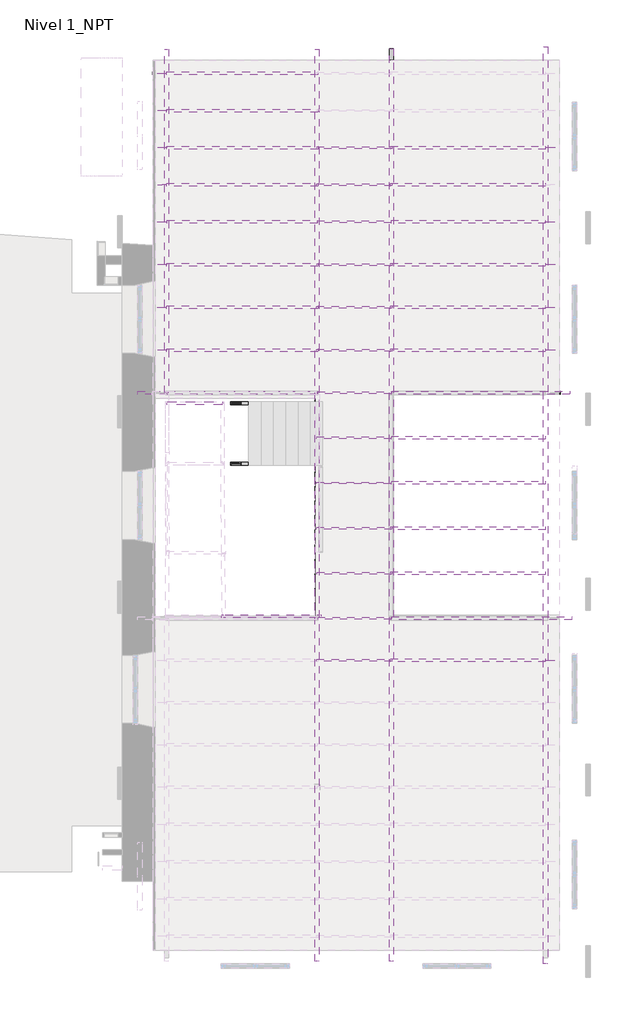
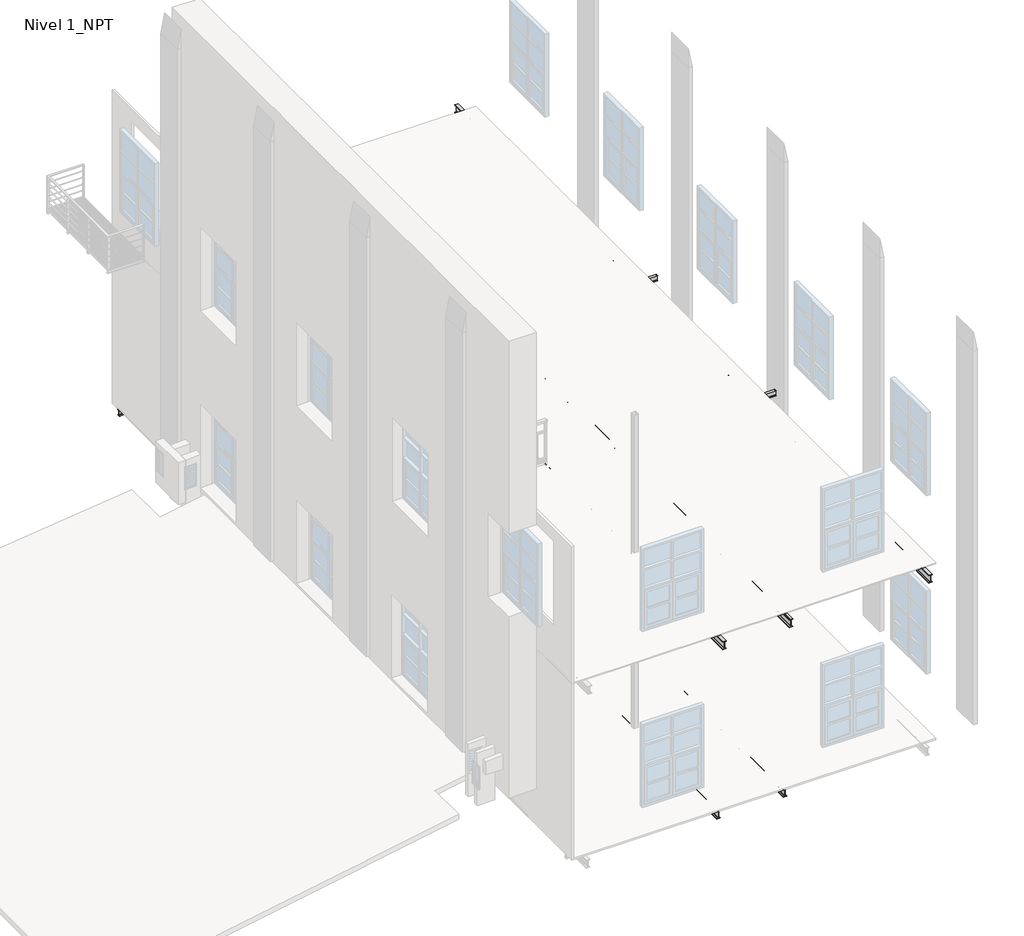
# One storey, part 3 of 6: 93 beams.
"""IFC4 building model written with IfcOpenShell, lengths in millimetres."""

from ifc_helpers import new_model, si_unit, point, frame, frame_2d, origin, place, context, project, spatial, polyline, circle_curve, trimmed, segment, composite_curve, outline, extrude, transform, mapped, element, save
from components import est_perf_ace_est_perf_ace_652393f0, ipn_140_ea90ba17, ipn_140_a066fb9f, ipn_140_dce53db5, ipn_140_1e3c4ed5, ipn_140_421eb129, ipn_140_9560b9f3, ipn_140_dd2e7f60, ipn_140_cea704c2, ipn_140_c6567682, est_vi_ipn_140_513cc523, ipn_140_ef176ace, ipn_140_6de8b993, ipn_140_4a258899, ipn_140_cbeb944a, est_vi_ipn_140_41f6773e, ipn_140_681980e7, ipn_140_393f5682, ipn_140_dc04cb4f, ipn_200_14f106e9, ipn_200_2b1a08ea, ipn_200_c3f78f1e, ipn_200_8969ec96, ipn_200_cd8d92dd, ipn_200_ee55a63d, ipn_200_5e1aae8f, ipn_80_bbd9ff88, ipn_80_7466b6c9, ipn_80_84bd256f, ipn_80_fcc924d6, ipn_80_671c353a, ipn_80_96fa54d6, ipn_80_94bfb847

model = new_model("IFC4")

# Units and contexts
model_context = context("Model", 3, world=origin())
ifc_project = project(units=[si_unit("LENGTHUNIT", "METRE", prefix="MILLI")], contexts=[model_context])

# Site, building, storey
site = spatial("IfcSite", under=ifc_project)
building = spatial("IfcBuilding", under=site)
storey = spatial("IfcBuildingStorey", under=building, Name="Nivel 1_NPT", Elevation=4940.0)

# Beams
placement = place(None, origin())
est_perf_ace_est_perf_ace_shape = est_perf_ace_est_perf_ace_652393f0(model_context)
element("IfcBeam", 1, ObjectType="EST-PERF-Ace : EST-PERF-Ace", at=placement, inside=storey, context=model_context, shape_type="MappedRepresentation", body=[
    mapped(est_perf_ace_est_perf_ace_shape, transform((6334.8126262, 7374.6072273, 9500.0), x_axis=(0.0, 1.0, 0.0), y_axis=(-1.0, 0.0, 0.0), z_axis=(0.0, 0.0, 1.0))),
])
element("IfcBeam", 2, ObjectType="EST-PERF-Ace : EST-PERF-Ace", at=placement, inside=storey, context=model_context, shape_type="MappedRepresentation", body=[
    mapped(est_perf_ace_est_perf_ace_shape, transform((6334.8126262, 8313.6072273, 9500.0), x_axis=(0.0, 1.0, 0.0), y_axis=(-1.0, 0.0, 0.0), z_axis=(0.0, 0.0, 1.0))),
])
element("IfcBeam", 3, ObjectType="EST-PERF-Ace : EST-PERF-Ace", at=placement, inside=storey, context=model_context, shape_type="MappedRepresentation", body=[
    mapped(est_perf_ace_est_perf_ace_shape, transform((6334.8126262, 9252.6072273, 9500.0), x_axis=(0.0, 1.0, 0.0), y_axis=(-1.0, 0.0, 0.0), z_axis=(0.0, 0.0, 1.0))),
])
element("IfcBeam", 4, ObjectType="EST-PERF-Ace : EST-PERF-Ace", at=placement, inside=storey, context=model_context, shape_type="MappedRepresentation", body=[
    mapped(est_perf_ace_est_perf_ace_shape, transform((6334.8126262, 10191.6072273, 9500.0), x_axis=(0.0, 1.0, 0.0), y_axis=(-1.0, 0.0, 0.0), z_axis=(0.0, 0.0, 1.0))),
])
element("IfcBeam", 5, ObjectType="EST-PERF-Ace : EST-PERF-Ace", at=placement, inside=storey, context=model_context, shape_type="MappedRepresentation", body=[
    mapped(est_perf_ace_est_perf_ace_shape, transform((6334.8126262, 11007.1072273, 9500.0), x_axis=(0.0, 1.0, 0.0), y_axis=(-1.0, 0.0, 0.0), z_axis=(0.0, 0.0, 1.0))),
])
element("IfcBeam", 6, ObjectType="EST-PERF-Ace : EST-PERF-Ace", at=placement, inside=storey, context=model_context, shape_type="MappedRepresentation", body=[
    mapped(est_perf_ace_est_perf_ace_shape, transform((6334.8126262, 11822.6072273, 9500.0), x_axis=(0.0, 1.0, 0.0), y_axis=(-1.0, 0.0, 0.0), z_axis=(0.0, 0.0, 1.0))),
])
element("IfcBeam", 7, ObjectType="EST-PERF-Ace : EST-PERF-Ace", at=placement, inside=storey, context=model_context, shape_type="MappedRepresentation", body=[
    mapped(est_perf_ace_est_perf_ace_shape, transform((6334.8126262, 12638.1072273, 9500.0), x_axis=(0.0, 1.0, 0.0), y_axis=(-1.0, 0.0, 0.0), z_axis=(0.0, 0.0, 1.0))),
])
element("IfcBeam", 8, ObjectType="EST-PERF-Ace : EST-PERF-Ace", at=placement, inside=storey, context=model_context, shape_type="MappedRepresentation", body=[
    mapped(est_perf_ace_est_perf_ace_shape, transform((6334.8126262, 13453.6072273, 9500.0), x_axis=(0.0, 1.0, 0.0), y_axis=(-1.0, 0.0, 0.0), z_axis=(0.0, 0.0, 1.0))),
])
element("IfcBeam", 9, ObjectType="EST-PERF-Ace : EST-PERF-Ace", at=placement, inside=storey, context=model_context, shape_type="MappedRepresentation", body=[
    mapped(est_perf_ace_est_perf_ace_shape, transform((14664.8126262, 556.847353, 9500.0), x_axis=(0.0, -1.0, 0.0), y_axis=(1.0, 0.0, 0.0), z_axis=(0.0, 0.0, 1.0))),
])
element("IfcBeam", 10, ObjectType="EST-PERF-Ace : EST-PERF-Ace", at=placement, inside=storey, context=model_context, shape_type="MappedRepresentation", body=[
    mapped(est_perf_ace_est_perf_ace_shape, transform((14664.8126262, 7374.6072273, 9500.0), x_axis=(0.0, -1.0, 0.0), y_axis=(1.0, 0.0, 0.0), z_axis=(0.0, 0.0, 1.0))),
])
element("IfcBeam", 11, ObjectType="EST-PERF-Ace : EST-PERF-Ace", at=placement, inside=storey, context=model_context, shape_type="MappedRepresentation", body=[
    mapped(est_perf_ace_est_perf_ace_shape, transform((14664.8126262, 8313.6072273, 9500.0), x_axis=(0.0, -1.0, 0.0), y_axis=(1.0, 0.0, 0.0), z_axis=(0.0, 0.0, 1.0))),
])
element("IfcBeam", 12, ObjectType="EST-PERF-Ace : EST-PERF-Ace", at=placement, inside=storey, context=model_context, shape_type="MappedRepresentation", body=[
    mapped(est_perf_ace_est_perf_ace_shape, transform((14664.8126262, 9252.6072273, 9500.0), x_axis=(0.0, -1.0, 0.0), y_axis=(1.0, 0.0, 0.0), z_axis=(0.0, 0.0, 1.0))),
])
element("IfcBeam", 13, ObjectType="EST-PERF-Ace : EST-PERF-Ace", at=placement, inside=storey, context=model_context, shape_type="MappedRepresentation", body=[
    mapped(est_perf_ace_est_perf_ace_shape, transform((14664.8126262, 10191.6072273, 9500.0), x_axis=(0.0, -1.0, 0.0), y_axis=(1.0, 0.0, 0.0), z_axis=(0.0, 0.0, 1.0))),
])
element("IfcBeam", 14, ObjectType="EST-PERF-Ace : EST-PERF-Ace", at=placement, inside=storey, context=model_context, shape_type="MappedRepresentation", body=[
    mapped(est_perf_ace_est_perf_ace_shape, transform((14664.8126262, 11822.6072273, 9500.0), x_axis=(0.0, -1.0, 0.0), y_axis=(1.0, 0.0, 0.0), z_axis=(0.0, 0.0, 1.0))),
])
element("IfcBeam", 15, ObjectType="IPN - Secciones en I con alas cónicas : IPN 140", at=placement, inside=storey, context=model_context, shape_type="SweptSolid", body=[
    extrude(outline(composite_curve([segment(polyline([(70.0, 33.0), (70.0, -33.0), (66.6671582, -33.0)]), True, "CONTINUOUS"), segment(trimmed(circle_curve(frame_2d((66.6671582, -29.6)), 3.4), [point((66.6671582, -33.0))], [point((63.2999963, -30.0714026))], False, "CARTESIAN"), True, "CONTINUOUS"), segment(polyline([(63.2999963, -30.0714026), (60.176359, -7.7597073)]), True, "CONTINUOUS"), segment(trimmed(circle_curve(frame_2d((54.531411, -8.5499999)), 5.7), [point((60.176359, -7.7597073))], [point((54.5314111, -2.85))], True, "CARTESIAN"), True, "CONTINUOUS"), segment(polyline([(54.5314111, -2.85), (-54.5314111, -2.85)]), True, "CONTINUOUS"), segment(trimmed(circle_curve(frame_2d((-54.5314111, -8.5499999)), 5.7), [point((-54.5314111, -2.85))], [point((-60.176359, -7.7597073))], True, "CARTESIAN"), True, "CONTINUOUS"), segment(polyline([(-60.176359, -7.7597073), (-63.2999964, -30.0714026)]), True, "CONTINUOUS"), segment(trimmed(circle_curve(frame_2d((-66.6671584, -29.6)), 3.4), [point((-63.2999964, -30.0714026))], [point((-66.6671584, -33.0))], False, "CARTESIAN"), True, "CONTINUOUS"), segment(polyline([(-66.6671584, -33.0), (-70.0, -32.9999999), (-70.0, 33.0000001), (-66.6671584, 33.0)]), True, "CONTINUOUS"), segment(trimmed(circle_curve(frame_2d((-66.6671584, 29.6)), 3.4), [point((-66.6671584, 33.0))], [point((-63.2999964, 30.0714027))], False, "CARTESIAN"), True, "CONTINUOUS"), segment(polyline([(-63.2999964, 30.0714027), (-60.176359, 7.7597074)]), True, "CONTINUOUS"), segment(trimmed(circle_curve(frame_2d((-54.5314111, 8.55)), 5.7), [point((-60.176359, 7.7597074))], [point((-54.5314111, 2.85))], True, "CARTESIAN"), True, "CONTINUOUS"), segment(polyline([(-54.5314111, 2.85), (54.531411, 2.85)]), True, "CONTINUOUS"), segment(trimmed(circle_curve(frame_2d((54.5314111, 8.55)), 5.7), [point((54.531411, 2.85))], [point((60.176359, 7.7597073))], True, "CARTESIAN"), True, "CONTINUOUS"), segment(polyline([(60.176359, 7.7597073), (63.2999963, 30.0714027)]), True, "CONTINUOUS"), segment(trimmed(circle_curve(frame_2d((66.6671583, 29.6000001)), 3.4), [point((63.2999963, 30.0714027))], [point((66.6671583, 33.0000001))], False, "CARTESIAN"), True, "CONTINUOUS"), segment(polyline([(66.6671583, 33.0000001), (70.0, 33.0)]), True, "CONTINUOUS")], self_intersect=False)), frame((9688.074093, 4877.6046448, 4855.3904828), z_axis=(-0.8178055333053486, 0.0010518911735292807, 0.5754937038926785), x_axis=(0.5754932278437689, -0.0007402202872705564, 0.8178062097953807)), (0.0, 0.0, 1.0), 2582.6152162),
])
element("IfcBeam", 16, ObjectType="IPN - Secciones en I con alas cónicas : IPN 140", at=placement, inside=storey, context=model_context, shape_type="SweptSolid", body=[
    extrude(outline(composite_curve([segment(polyline([(70.0, -33.0), (66.6671583, -33.0)]), True, "CONTINUOUS"), segment(trimmed(circle_curve(frame_2d((66.6671583, -29.6)), 3.4), [point((66.6671583, -33.0))], [point((63.2999964, -30.0714027))], False, "CARTESIAN"), True, "CONTINUOUS"), segment(polyline([(63.2999964, -30.0714027), (60.176359, -7.7597073)]), True, "CONTINUOUS"), segment(trimmed(circle_curve(frame_2d((54.5314111, -8.55)), 5.7), [point((60.176359, -7.7597073))], [point((54.5314111, -2.85))], True, "CARTESIAN"), True, "CONTINUOUS"), segment(polyline([(54.5314111, -2.85), (-54.531411, -2.85)]), True, "CONTINUOUS"), segment(trimmed(circle_curve(frame_2d((-54.531411, -8.55)), 5.7), [point((-54.531411, -2.85))], [point((-60.176359, -7.7597073))], True, "CARTESIAN"), True, "CONTINUOUS"), segment(polyline([(-60.176359, -7.7597073), (-63.2999963, -30.0714027)]), True, "CONTINUOUS"), segment(trimmed(circle_curve(frame_2d((-66.6671583, -29.6)), 3.4), [point((-63.2999963, -30.0714027))], [point((-66.6671583, -33.0))], False, "CARTESIAN"), True, "CONTINUOUS"), segment(polyline([(-66.6671583, -33.0), (-70.0, -33.0), (-70.0, 33.0), (-66.6671583, 33.0)]), True, "CONTINUOUS"), segment(trimmed(circle_curve(frame_2d((-66.6671583, 29.6)), 3.4), [point((-66.6671583, 33.0))], [point((-63.2999963, 30.0714026))], False, "CARTESIAN"), True, "CONTINUOUS"), segment(polyline([(-63.2999963, 30.0714026), (-60.176359, 7.7597072)]), True, "CONTINUOUS"), segment(trimmed(circle_curve(frame_2d((-54.531411, 8.55)), 5.7), [point((-60.176359, 7.7597072))], [point((-54.531411, 2.85))], True, "CARTESIAN"), True, "CONTINUOUS"), segment(polyline([(-54.531411, 2.85), (54.5314111, 2.85)]), True, "CONTINUOUS"), segment(trimmed(circle_curve(frame_2d((54.5314111, 8.55)), 5.7), [point((54.5314111, 2.85))], [point((60.176359, 7.7597072))], True, "CARTESIAN"), True, "CONTINUOUS"), segment(polyline([(60.176359, 7.7597072), (63.2999964, 30.0714026)]), True, "CONTINUOUS"), segment(trimmed(circle_curve(frame_2d((66.6671583, 29.6)), 3.4), [point((63.2999964, 30.0714026))], [point((66.6671583, 33.0))], False, "CARTESIAN"), True, "CONTINUOUS"), segment(polyline([(66.6671583, 33.0), (70.0, 33.0), (70.0, -33.0)]), True, "CONTINUOUS")], self_intersect=False)), frame((7566.2054865, 6211.6117789, 6333.1623069), z_axis=(-0.9999999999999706, 0.0, 2.4249234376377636e-07), x_axis=(2.4249234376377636e-07, 0.0, 0.9999999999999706)), (0.0, 0.0, 1.0), 1220.85),
])
element("IfcBeam", 17, ObjectType="IPN - Secciones en I con alas cónicas : IPN 140", at=placement, inside=storey, context=model_context, shape_type="SweptSolid", body=[
    extrude(outline(composite_curve([segment(polyline([(70.0, -33.0), (66.6671583, -33.0)]), True, "CONTINUOUS"), segment(trimmed(circle_curve(frame_2d((66.6671583, -29.6)), 3.4), [point((66.6671583, -33.0))], [point((63.2999963, -30.0714027))], False, "CARTESIAN"), True, "CONTINUOUS"), segment(polyline([(63.2999963, -30.0714027), (60.176359, -7.7597073)]), True, "CONTINUOUS"), segment(trimmed(circle_curve(frame_2d((54.531411, -8.55)), 5.7), [point((60.176359, -7.7597073))], [point((54.531411, -2.85))], True, "CARTESIAN"), True, "CONTINUOUS"), segment(polyline([(54.531411, -2.85), (-54.5314111, -2.85)]), True, "CONTINUOUS"), segment(trimmed(circle_curve(frame_2d((-54.5314111, -8.55)), 5.7), [point((-54.5314111, -2.85))], [point((-60.1763591, -7.7597073))], True, "CARTESIAN"), True, "CONTINUOUS"), segment(polyline([(-60.1763591, -7.7597073), (-63.2999964, -30.0714027)]), True, "CONTINUOUS"), segment(trimmed(circle_curve(frame_2d((-66.6671584, -29.6)), 3.4), [point((-63.2999964, -30.0714027))], [point((-66.6671584, -33.0))], False, "CARTESIAN"), True, "CONTINUOUS"), segment(polyline([(-66.6671584, -33.0), (-70.0, -33.0), (-70.0, 33.0), (-66.6671584, 33.0)]), True, "CONTINUOUS"), segment(trimmed(circle_curve(frame_2d((-66.6671584, 29.6)), 3.4), [point((-66.6671584, 33.0))], [point((-63.2999964, 30.0714026))], False, "CARTESIAN"), True, "CONTINUOUS"), segment(polyline([(-63.2999964, 30.0714026), (-60.1763591, 7.7597072)]), True, "CONTINUOUS"), segment(trimmed(circle_curve(frame_2d((-54.5314111, 8.55)), 5.7), [point((-60.1763591, 7.7597072))], [point((-54.5314111, 2.85))], True, "CARTESIAN"), True, "CONTINUOUS"), segment(polyline([(-54.5314111, 2.85), (54.531411, 2.85)]), True, "CONTINUOUS"), segment(trimmed(circle_curve(frame_2d((54.531411, 8.55)), 5.7), [point((54.531411, 2.85))], [point((60.176359, 7.7597072))], True, "CARTESIAN"), True, "CONTINUOUS"), segment(polyline([(60.176359, 7.7597072), (63.2999963, 30.0714026)]), True, "CONTINUOUS"), segment(trimmed(circle_curve(frame_2d((66.6671583, 29.6)), 3.4), [point((63.2999963, 30.0714026))], [point((66.6671583, 33.0))], False, "CARTESIAN"), True, "CONTINUOUS"), segment(polyline([(66.6671583, 33.0), (70.0, 33.0), (70.0, -33.0)]), True, "CONTINUOUS")], self_intersect=False)), frame((7566.2054865, 6211.6117789, 6529.649704), z_axis=(-0.9999999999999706, 0.0, 2.4249234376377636e-07), x_axis=(2.4249234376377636e-07, 0.0, 0.9999999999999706)), (0.0, 0.0, 1.0), 1220.85),
])
element("IfcBeam", 18, ObjectType="IPN - Secciones en I con alas cónicas : IPN 140", at=placement, inside=storey, context=model_context, shape_type="SweptSolid", body=[
    extrude(outline(composite_curve([segment(polyline([(70.0, 33.0), (70.0, -33.0), (66.6671582, -32.9999999)]), True, "CONTINUOUS"), segment(trimmed(circle_curve(frame_2d((66.6671582, -29.6)), 3.4), [point((66.6671582, -32.9999999))], [point((63.2999963, -30.0714026))], False, "CARTESIAN"), True, "CONTINUOUS"), segment(polyline([(63.2999963, -30.0714026), (60.176359, -7.7597073)]), True, "CONTINUOUS"), segment(trimmed(circle_curve(frame_2d((54.531411, -8.5499999)), 5.7), [point((60.176359, -7.7597073))], [point((54.5314111, -2.85))], True, "CARTESIAN"), True, "CONTINUOUS"), segment(polyline([(54.5314111, -2.85), (-54.5314111, -2.8499999)]), True, "CONTINUOUS"), segment(trimmed(circle_curve(frame_2d((-54.5314111, -8.5499999)), 5.7), [point((-54.5314111, -2.8499999))], [point((-60.176359, -7.7597073))], True, "CARTESIAN"), True, "CONTINUOUS"), segment(polyline([(-60.176359, -7.7597073), (-63.2999964, -30.0714026)]), True, "CONTINUOUS"), segment(trimmed(circle_curve(frame_2d((-66.6671584, -29.6)), 3.4), [point((-63.2999964, -30.0714026))], [point((-66.6671584, -33.0))], False, "CARTESIAN"), True, "CONTINUOUS"), segment(polyline([(-66.6671584, -33.0), (-70.0, -32.9999999), (-70.0, 33.0000001), (-66.6671584, 33.0)]), True, "CONTINUOUS"), segment(trimmed(circle_curve(frame_2d((-66.6671584, 29.6)), 3.4), [point((-66.6671584, 33.0))], [point((-63.2999964, 30.0714027))], False, "CARTESIAN"), True, "CONTINUOUS"), segment(polyline([(-63.2999964, 30.0714027), (-60.176359, 7.7597074)]), True, "CONTINUOUS"), segment(trimmed(circle_curve(frame_2d((-54.5314111, 8.55)), 5.7), [point((-60.176359, 7.7597074))], [point((-54.5314111, 2.85))], True, "CARTESIAN"), True, "CONTINUOUS"), segment(polyline([(-54.5314111, 2.85), (54.531411, 2.85)]), True, "CONTINUOUS"), segment(trimmed(circle_curve(frame_2d((54.5314111, 8.55)), 5.7), [point((54.531411, 2.85))], [point((60.176359, 7.7597074))], True, "CARTESIAN"), True, "CONTINUOUS"), segment(polyline([(60.176359, 7.7597074), (63.2999963, 30.0714027)]), True, "CONTINUOUS"), segment(trimmed(circle_curve(frame_2d((66.6671583, 29.6000001)), 3.4), [point((63.2999963, 30.0714027))], [point((66.6671583, 33.0000001))], False, "CARTESIAN"), True, "CONTINUOUS"), segment(polyline([(66.6671583, 33.0000001), (70.0, 33.0)]), True, "CONTINUOUS")], self_intersect=False)), frame((9688.074093, 6209.5775946, 4855.3904828), z_axis=(-0.8178055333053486, 0.0010518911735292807, 0.5754937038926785), x_axis=(0.5754932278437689, -0.0007402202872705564, 0.8178062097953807)), (0.0, 0.0, 1.0), 2582.6152162),
])
element("IfcBeam", 19, ObjectType="IPN - Secciones en I con alas cónicas : IPN 140", at=placement, inside=storey, context=model_context, shape_type="SweptSolid", body=[
    extrude(outline(composite_curve([segment(polyline([(70.0, -33.0), (66.6671583, -33.0)]), True, "CONTINUOUS"), segment(trimmed(circle_curve(frame_2d((66.6671583, -29.6)), 3.4), [point((66.6671583, -33.0))], [point((63.2999964, -30.0714026))], False, "CARTESIAN"), True, "CONTINUOUS"), segment(polyline([(63.2999964, -30.0714026), (60.176359, -7.7597072)]), True, "CONTINUOUS"), segment(trimmed(circle_curve(frame_2d((54.5314111, -8.55)), 5.7), [point((60.176359, -7.7597072))], [point((54.5314111, -2.85))], True, "CARTESIAN"), True, "CONTINUOUS"), segment(polyline([(54.5314111, -2.85), (-54.5314111, -2.85)]), True, "CONTINUOUS"), segment(trimmed(circle_curve(frame_2d((-54.5314111, -8.55)), 5.7), [point((-54.5314111, -2.85))], [point((-60.176359, -7.7597072))], True, "CARTESIAN"), True, "CONTINUOUS"), segment(polyline([(-60.176359, -7.7597072), (-63.2999963, -30.0714026)]), True, "CONTINUOUS"), segment(trimmed(circle_curve(frame_2d((-66.6671582, -29.6)), 3.4), [point((-63.2999963, -30.0714026))], [point((-66.6671582, -33.0))], False, "CARTESIAN"), True, "CONTINUOUS"), segment(polyline([(-66.6671582, -33.0), (-70.0, -33.0), (-70.0, 33.0), (-66.6671582, 33.0)]), True, "CONTINUOUS"), segment(trimmed(circle_curve(frame_2d((-66.6671582, 29.6)), 3.4), [point((-66.6671582, 33.0))], [point((-63.2999963, 30.0714027))], False, "CARTESIAN"), True, "CONTINUOUS"), segment(polyline([(-63.2999963, 30.0714027), (-60.176359, 7.7597073)]), True, "CONTINUOUS"), segment(trimmed(circle_curve(frame_2d((-54.5314111, 8.55)), 5.7), [point((-60.176359, 7.7597073))], [point((-54.5314111, 2.85))], True, "CARTESIAN"), True, "CONTINUOUS"), segment(polyline([(-54.5314111, 2.85), (54.5314111, 2.85)]), True, "CONTINUOUS"), segment(trimmed(circle_curve(frame_2d((54.5314111, 8.55)), 5.7), [point((54.5314111, 2.85))], [point((60.176359, 7.7597073))], True, "CARTESIAN"), True, "CONTINUOUS"), segment(polyline([(60.176359, 7.7597073), (63.2999964, 30.0714027)]), True, "CONTINUOUS"), segment(trimmed(circle_curve(frame_2d((66.6671583, 29.6)), 3.4), [point((63.2999964, 30.0714027))], [point((66.6671583, 33.0))], False, "CARTESIAN"), True, "CONTINUOUS"), segment(polyline([(66.6671583, 33.0), (70.0, 33.0), (70.0, -33.0)]), True, "CONTINUOUS")], self_intersect=False)), frame((7583.3621946, 1529.342606, 7850.2148734), z_axis=(0.802705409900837, 0.0, 0.596375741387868), x_axis=(-0.596375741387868, 0.0, 0.802705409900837)), (0.0, 0.0, 1.0), 2613.7379077),
])
ipn_140_shape = ipn_140_ea90ba17(model_context)
element("IfcBeam", 20, ObjectType="IPN - Secciones en I con alas cónicas : IPN 140", at=placement, inside=storey, context=model_context, shape_type="MappedRepresentation", body=[
    mapped(ipn_140_shape, transform((13064.8126262, 7374.6072273, 4840.0), x_axis=(1.0, 0.0, 0.0), y_axis=(0.0, 1.0, 0.0), z_axis=(0.0, 0.0, 1.0))),
])
element("IfcBeam", 21, ObjectType="IPN - Secciones en I con alas cónicas : IPN 140", at=placement, inside=storey, context=model_context, shape_type="MappedRepresentation", body=[
    mapped(ipn_140_shape, transform((13064.8126262, 556.847353, 4840.0), x_axis=(1.0, 0.0, 0.0), y_axis=(0.0, 1.0, 0.0), z_axis=(0.0, 0.0, 1.0))),
])
ipn_140_2_shape = ipn_140_a066fb9f(model_context)
element("IfcBeam", 22, ObjectType="IPN - Secciones en I con alas cónicas : IPN 140", at=placement, inside=storey, context=model_context, shape_type="MappedRepresentation", body=[
    mapped(ipn_140_2_shape, transform((13119.8126262, 11007.1072273, 4840.0), x_axis=(1.0, 0.0, 0.0), y_axis=(0.0, 1.0, 0.0), z_axis=(0.0, 0.0, 1.0))),
])
element("IfcBeam", 23, ObjectType="IPN - Secciones en I con alas cónicas : IPN 140", at=placement, inside=storey, context=model_context, shape_type="MappedRepresentation", body=[
    mapped(ipn_140_2_shape, transform((13119.8126262, 11822.6072273, 4840.0), x_axis=(1.0, 0.0, 0.0), y_axis=(0.0, 1.0, 0.0), z_axis=(0.0, 0.0, 1.0))),
])
element("IfcBeam", 24, ObjectType="IPN - Secciones en I con alas cónicas : IPN 140", at=placement, inside=storey, context=model_context, shape_type="MappedRepresentation", body=[
    mapped(ipn_140_2_shape, transform((13119.8126262, 9252.6072273, 4840.0), x_axis=(1.0, 0.0, 0.0), y_axis=(0.0, 1.0, 0.0), z_axis=(0.0, 0.0, 1.0))),
])
element("IfcBeam", 25, ObjectType="IPN - Secciones en I con alas cónicas : IPN 140", at=placement, inside=storey, context=model_context, shape_type="MappedRepresentation", body=[
    mapped(ipn_140_2_shape, transform((13119.8126262, 8313.6072273, 4840.0), x_axis=(1.0, 0.0, 0.0), y_axis=(0.0, 1.0, 0.0), z_axis=(0.0, 0.0, 1.0))),
])
ipn_140_3_shape = ipn_140_dce53db5(model_context)
element("IfcBeam", 26, ObjectType="IPN - Secciones en I con alas cónicas : IPN 140", at=placement, inside=storey, context=model_context, shape_type="MappedRepresentation", body=[
    mapped(ipn_140_3_shape, transform((7904.8126262, 11007.1072273, 4840.0), x_axis=(1.0, 0.0, 0.0), y_axis=(0.0, 1.0, 0.0), z_axis=(0.0, 0.0, 1.0))),
])
element("IfcBeam", 27, ObjectType="IPN - Secciones en I con alas cónicas : IPN 140", at=placement, inside=storey, context=model_context, shape_type="MappedRepresentation", body=[
    mapped(ipn_140_3_shape, transform((7904.8126262, 11822.6072273, 4840.0), x_axis=(1.0, 0.0, 0.0), y_axis=(0.0, 1.0, 0.0), z_axis=(0.0, 0.0, 1.0))),
])
element("IfcBeam", 28, ObjectType="IPN - Secciones en I con alas cónicas : IPN 140", at=placement, inside=storey, context=model_context, shape_type="MappedRepresentation", body=[
    mapped(ipn_140_3_shape, transform((7904.8126262, 12638.1072273, 4840.0), x_axis=(1.0, 0.0, 0.0), y_axis=(0.0, 1.0, 0.0), z_axis=(0.0, 0.0, 1.0))),
])
element("IfcBeam", 29, ObjectType="IPN - Secciones en I con alas cónicas : IPN 140", at=placement, inside=storey, context=model_context, shape_type="MappedRepresentation", body=[
    mapped(ipn_140_3_shape, transform((7904.8126262, 9252.6072273, 4840.0), x_axis=(1.0, 0.0, 0.0), y_axis=(0.0, 1.0, 0.0), z_axis=(0.0, 0.0, 1.0))),
])
element("IfcBeam", 30, ObjectType="IPN - Secciones en I con alas cónicas : IPN 140", at=placement, inside=storey, context=model_context, shape_type="MappedRepresentation", body=[
    mapped(ipn_140_3_shape, transform((7904.8126262, 8313.6072273, 4840.0), x_axis=(1.0, 0.0, 0.0), y_axis=(0.0, 1.0, 0.0), z_axis=(0.0, 0.0, 1.0))),
])
element("IfcBeam", 31, ObjectType="IPN - Secciones en I con alas cónicas : IPN 140", at=placement, inside=storey, context=model_context, shape_type="MappedRepresentation", body=[
    mapped(ipn_140_3_shape, transform((7904.8126262, 7374.6072273, 4840.0), x_axis=(1.0, 0.0, 0.0), y_axis=(0.0, 1.0, 0.0), z_axis=(0.0, 0.0, 1.0))),
])
ipn_140_4_shape = ipn_140_1e3c4ed5(model_context)
element("IfcBeam", 32, ObjectType="IPN - Secciones en I con alas cónicas : IPN 140", at=placement, inside=storey, context=model_context, shape_type="MappedRepresentation", body=[
    mapped(ipn_140_4_shape, transform((7835.8281044, 13453.6072273, 4840.0), x_axis=(1.0, 0.0, 0.0), y_axis=(0.0, 1.0, 0.0), z_axis=(0.0, 0.0, 1.0))),
])
ipn_140_5_shape = ipn_140_421eb129(model_context)
element("IfcBeam", 33, ObjectType="IPN - Secciones en I con alas cónicas : IPN 140", at=placement, inside=storey, context=model_context, shape_type="MappedRepresentation", body=[
    mapped(ipn_140_5_shape, transform((7836.0890431, 6435.6072273, 4840.0), x_axis=(1.0, 0.0, 0.0), y_axis=(0.0, 1.0, 0.0), z_axis=(0.0, 0.0, 1.0))),
])
ipn_140_6_shape = ipn_140_9560b9f3(model_context)
element("IfcBeam", 34, ObjectType="IPN - Secciones en I con alas cónicas : IPN 140", at=placement, inside=storey, context=model_context, shape_type="MappedRepresentation", body=[
    mapped(ipn_140_6_shape, transform((13124.5288206, 6435.6072273, 4840.0), x_axis=(1.0, 0.0, 0.0), y_axis=(0.0, 1.0, 0.0), z_axis=(0.0, 0.0, 1.0))),
])
ipn_140_7_shape = ipn_140_dd2e7f60(model_context)
element("IfcBeam", 35, ObjectType="IPN - Secciones en I con alas cónicas : IPN 140", at=placement, inside=storey, context=model_context, shape_type="MappedRepresentation", body=[
    mapped(ipn_140_7_shape, transform((13124.4934044, 1484.5940615, 4840.0), x_axis=(1.0, 0.0, 0.0), y_axis=(0.0, 1.0, 0.0), z_axis=(0.0, 0.0, 1.0))),
])
ipn_140_8_shape = ipn_140_cea704c2(model_context)
element("IfcBeam", 36, ObjectType="IPN - Secciones en I con alas cónicas : IPN 140", at=placement, inside=storey, context=model_context, shape_type="MappedRepresentation", body=[
    mapped(ipn_140_8_shape, transform((7899.65239, 10191.6072273, 4840.0), x_axis=(1.0, 0.0, 0.0), y_axis=(0.0, 1.0, 0.0), z_axis=(0.0, 0.0, 1.0))),
])
ipn_140_9_shape = ipn_140_c6567682(model_context)
element("IfcBeam", 37, ObjectType="IPN - Secciones en I con alas cónicas : IPN 140", at=placement, inside=storey, context=model_context, shape_type="MappedRepresentation", body=[
    mapped(ipn_140_9_shape, transform((13123.1774298, 10191.6072273, 4840.0), x_axis=(1.0, 0.0, 0.0), y_axis=(0.0, 1.0, 0.0), z_axis=(0.0, 0.0, 1.0))),
])
est_vi_ipn_140_shape = est_vi_ipn_140_513cc523(model_context)
element("IfcBeam", 38, ObjectType="IPN - Secciones en I con alas cónicas : IPN 140", at=placement, inside=storey, context=model_context, shape_type="MappedRepresentation", body=[
    mapped(est_vi_ipn_140_shape, transform((7989.8126262, 11007.1072273, 9400.0), x_axis=(1.0, 0.0, 0.0), y_axis=(0.0, 1.0, 0.0), z_axis=(0.0, 0.0, 1.0))),
])
element("IfcBeam", 39, ObjectType="IPN - Secciones en I con alas cónicas : IPN 140", at=placement, inside=storey, context=model_context, shape_type="MappedRepresentation", body=[
    mapped(est_vi_ipn_140_shape, transform((7989.8126262, 11822.6072273, 9400.0), x_axis=(1.0, 0.0, 0.0), y_axis=(0.0, 1.0, 0.0), z_axis=(0.0, 0.0, 1.0))),
])
element("IfcBeam", 40, ObjectType="IPN - Secciones en I con alas cónicas : IPN 140", at=placement, inside=storey, context=model_context, shape_type="MappedRepresentation", body=[
    mapped(est_vi_ipn_140_shape, transform((7989.8126262, 12638.1072273, 9400.0), x_axis=(1.0, 0.0, 0.0), y_axis=(0.0, 1.0, 0.0), z_axis=(0.0, 0.0, 1.0))),
])
element("IfcBeam", 41, ObjectType="IPN - Secciones en I con alas cónicas : IPN 140", at=placement, inside=storey, context=model_context, shape_type="MappedRepresentation", body=[
    mapped(est_vi_ipn_140_shape, transform((7989.8126262, 9252.6072273, 9400.0), x_axis=(1.0, 0.0, 0.0), y_axis=(0.0, 1.0, 0.0), z_axis=(0.0, 0.0, 1.0))),
])
element("IfcBeam", 42, ObjectType="IPN - Secciones en I con alas cónicas : IPN 140", at=placement, inside=storey, context=model_context, shape_type="MappedRepresentation", body=[
    mapped(est_vi_ipn_140_shape, transform((7989.8126262, 8313.6072273, 9400.0), x_axis=(1.0, 0.0, 0.0), y_axis=(0.0, 1.0, 0.0), z_axis=(0.0, 0.0, 1.0))),
])
element("IfcBeam", 43, ObjectType="IPN - Secciones en I con alas cónicas : IPN 140", at=placement, inside=storey, context=model_context, shape_type="MappedRepresentation", body=[
    mapped(est_vi_ipn_140_shape, transform((7989.8126262, 7374.6072273, 9400.0), x_axis=(1.0, 0.0, 0.0), y_axis=(0.0, 1.0, 0.0), z_axis=(0.0, 0.0, 1.0))),
])
element("IfcBeam", 44, ObjectType="IPN - Secciones en I con alas cónicas : IPN 140", at=placement, inside=storey, context=model_context, shape_type="MappedRepresentation", body=[
    mapped(est_vi_ipn_140_shape, transform((7989.8126262, 13453.6072273, 9400.0), x_axis=(1.0, 0.0, 0.0), y_axis=(0.0, 1.0, 0.0), z_axis=(0.0, 0.0, 1.0))),
])
ipn_140_10_shape = ipn_140_ef176ace(model_context)
element("IfcBeam", 45, ObjectType="IPN - Secciones en I con alas cónicas : IPN 140", at=placement, inside=storey, context=model_context, shape_type="MappedRepresentation", body=[
    mapped(ipn_140_10_shape, transform((7989.8126262, 10191.6072273, 9400.0), x_axis=(1.0, 0.0, 0.0), y_axis=(0.0, 1.0, 0.0), z_axis=(0.0, 0.0, 1.0))),
])
ipn_140_11_shape = ipn_140_6de8b993(model_context)
element("IfcBeam", 46, ObjectType="IPN - Secciones en I con alas cónicas : IPN 140", at=placement, inside=storey, context=model_context, shape_type="MappedRepresentation", body=[
    mapped(ipn_140_11_shape, transform((12969.8126262, 6435.6072273, 9400.0), x_axis=(1.0, 0.0, 0.0), y_axis=(0.0, 1.0, 0.0), z_axis=(0.0, 0.0, 1.0))),
])
ipn_140_12_shape = ipn_140_4a258899(model_context)
element("IfcBeam", 47, ObjectType="IPN - Secciones en I con alas cónicas : IPN 140", at=placement, inside=storey, context=model_context, shape_type="MappedRepresentation", body=[
    mapped(ipn_140_12_shape, transform((12969.8126262, 1484.5940615, 9400.0), x_axis=(1.0, 0.0, 0.0), y_axis=(0.0, 1.0, 0.0), z_axis=(0.0, 0.0, 1.0))),
])
ipn_140_13_shape = ipn_140_cbeb944a(model_context)
element("IfcBeam", 48, ObjectType="IPN - Secciones en I con alas cónicas : IPN 140", at=placement, inside=storey, context=model_context, shape_type="MappedRepresentation", body=[
    mapped(ipn_140_13_shape, transform((7989.8126262, 6435.6072273, 9400.0), x_axis=(1.0, 0.0, 0.0), y_axis=(0.0, 1.0, 0.0), z_axis=(0.0, 0.0, 1.0))),
])
est_vi_ipn_140_2_shape = est_vi_ipn_140_41f6773e(model_context)
element("IfcBeam", 49, ObjectType="IPN - Secciones en I con alas cónicas : IPN 140", at=placement, inside=storey, context=model_context, shape_type="MappedRepresentation", body=[
    mapped(est_vi_ipn_140_2_shape, transform((12969.8126262, 11007.1072273, 9400.0), x_axis=(1.0, 0.0, 0.0), y_axis=(0.0, 1.0, 0.0), z_axis=(0.0, 0.0, 1.0))),
])
element("IfcBeam", 50, ObjectType="IPN - Secciones en I con alas cónicas : IPN 140", at=placement, inside=storey, context=model_context, shape_type="MappedRepresentation", body=[
    mapped(est_vi_ipn_140_2_shape, transform((12969.8126262, 11822.6072273, 9400.0), x_axis=(1.0, 0.0, 0.0), y_axis=(0.0, 1.0, 0.0), z_axis=(0.0, 0.0, 1.0))),
])
element("IfcBeam", 51, ObjectType="IPN - Secciones en I con alas cónicas : IPN 140", at=placement, inside=storey, context=model_context, shape_type="MappedRepresentation", body=[
    mapped(est_vi_ipn_140_2_shape, transform((12969.8126262, 9252.6072273, 9400.0), x_axis=(1.0, 0.0, 0.0), y_axis=(0.0, 1.0, 0.0), z_axis=(0.0, 0.0, 1.0))),
])
element("IfcBeam", 52, ObjectType="IPN - Secciones en I con alas cónicas : IPN 140", at=placement, inside=storey, context=model_context, shape_type="MappedRepresentation", body=[
    mapped(est_vi_ipn_140_2_shape, transform((12969.8126262, 8313.6072273, 9400.0), x_axis=(1.0, 0.0, 0.0), y_axis=(0.0, 1.0, 0.0), z_axis=(0.0, 0.0, 1.0))),
])
element("IfcBeam", 53, ObjectType="IPN - Secciones en I con alas cónicas : IPN 140", at=placement, inside=storey, context=model_context, shape_type="MappedRepresentation", body=[
    mapped(est_vi_ipn_140_2_shape, transform((12969.8126262, 7374.6072273, 9400.0), x_axis=(1.0, 0.0, 0.0), y_axis=(0.0, 1.0, 0.0), z_axis=(0.0, 0.0, 1.0))),
])
element("IfcBeam", 54, ObjectType="IPN - Secciones en I con alas cónicas : IPN 140", at=placement, inside=storey, context=model_context, shape_type="MappedRepresentation", body=[
    mapped(est_vi_ipn_140_2_shape, transform((12969.8126262, 556.847353, 9400.0), x_axis=(1.0, 0.0, 0.0), y_axis=(0.0, 1.0, 0.0), z_axis=(0.0, 0.0, 1.0))),
])
element("IfcBeam", 55, ObjectType="IPN - Secciones en I con alas cónicas : IPN 140", at=placement, inside=storey, context=model_context, shape_type="MappedRepresentation", body=[
    mapped(est_vi_ipn_140_2_shape, transform((12969.8126262, 3464.9993278, 9400.0), x_axis=(1.0, 0.0, 0.0), y_axis=(0.0, 1.0, 0.0), z_axis=(0.0, 0.0, 1.0))),
])
element("IfcBeam", 56, ObjectType="IPN - Secciones en I con alas cónicas : IPN 140", at=placement, inside=storey, context=model_context, shape_type="MappedRepresentation", body=[
    mapped(est_vi_ipn_140_2_shape, transform((12969.8126262, 2474.7966947, 9400.0), x_axis=(1.0, 0.0, 0.0), y_axis=(0.0, 1.0, 0.0), z_axis=(0.0, 0.0, 1.0))),
])
ipn_140_14_shape = ipn_140_681980e7(model_context)
element("IfcBeam", 57, ObjectType="IPN - Secciones en I con alas cónicas : IPN 140", at=placement, inside=storey, context=model_context, shape_type="MappedRepresentation", body=[
    mapped(ipn_140_14_shape, transform((12969.8126262, 4455.201961, 9400.0), x_axis=(1.0, 0.0, 0.0), y_axis=(0.0, 1.0, 0.0), z_axis=(0.0, 0.0, 1.0))),
])
ipn_140_15_shape = ipn_140_393f5682(model_context)
element("IfcBeam", 58, ObjectType="IPN - Secciones en I con alas cónicas : IPN 140", at=placement, inside=storey, context=model_context, shape_type="MappedRepresentation", body=[
    mapped(ipn_140_15_shape, transform((12969.8126262, 5445.4045942, 9400.0), x_axis=(1.0, 0.0, 0.0), y_axis=(0.0, 1.0, 0.0), z_axis=(0.0, 0.0, 1.0))),
])
ipn_140_16_shape = ipn_140_dc04cb4f(model_context)
element("IfcBeam", 59, ObjectType="IPN - Secciones en I con alas cónicas : IPN 140", at=placement, inside=storey, context=model_context, shape_type="MappedRepresentation", body=[
    mapped(ipn_140_16_shape, transform((12968.3126262, 10191.6072273, 9400.0), x_axis=(1.0, 0.0, 0.0), y_axis=(0.0, 1.0, 0.0), z_axis=(0.0, 0.0, 1.0))),
])
element("IfcBeam", 60, ObjectType="IPN - Secciones en I con alas cónicas : IPN 200", at=placement, inside=storey, context=model_context, shape_type="SweptSolid", body=[
    extrude(outline(composite_curve([segment(polyline([(4910.0, 9689.8126262), (4910.0, 9599.8126262), (4905.763886, 9599.8126262)]), True, "CONTINUOUS"), segment(trimmed(circle_curve(frame_2d((4905.763886, 9604.3126262)), 4.5), [point((4905.763886, 9599.8126262))], [point((4901.3073481, 9603.6887109))], False, "CARTESIAN"), True, "CONTINUOUS"), segment(polyline([(4901.3073481, 9603.6887109), (4896.9794198, 9634.602485)]), True, "CONTINUOUS"), segment(trimmed(circle_curve(frame_2d((4889.5518567, 9633.5626262)), 7.5), [point((4896.9794198, 9634.602485))], [point((4889.5518567, 9641.0626262))], True, "CARTESIAN"), True, "CONTINUOUS"), segment(polyline([(4889.5518567, 9641.0626262), (4730.4481433, 9641.0626262)]), True, "CONTINUOUS"), segment(trimmed(circle_curve(frame_2d((4730.4481433, 9633.5626262)), 7.5), [point((4730.4481433, 9641.0626262))], [point((4723.0205802, 9634.602485))], True, "CARTESIAN"), True, "CONTINUOUS"), segment(polyline([(4723.0205802, 9634.602485), (4718.6926519, 9603.6887109)]), True, "CONTINUOUS"), segment(trimmed(circle_curve(frame_2d((4714.236114, 9604.3126262)), 4.5), [point((4718.6926519, 9603.6887109))], [point((4714.236114, 9599.8126262))], False, "CARTESIAN"), True, "CONTINUOUS"), segment(polyline([(4714.236114, 9599.8126262), (4710.0, 9599.8126262), (4710.0, 9689.8126262), (4714.236114, 9689.8126262)]), True, "CONTINUOUS"), segment(trimmed(circle_curve(frame_2d((4714.236114, 9685.3126262)), 4.5), [point((4714.236114, 9689.8126262))], [point((4718.6926519, 9685.9365415))], False, "CARTESIAN"), True, "CONTINUOUS"), segment(polyline([(4718.6926519, 9685.9365415), (4723.0205802, 9655.0227674)]), True, "CONTINUOUS"), segment(trimmed(circle_curve(frame_2d((4730.4481433, 9656.0626262)), 7.5), [point((4723.0205802, 9655.0227674))], [point((4730.4481433, 9648.5626262))], True, "CARTESIAN"), True, "CONTINUOUS"), segment(polyline([(4730.4481433, 9648.5626262), (4889.5518567, 9648.5626262)]), True, "CONTINUOUS"), segment(trimmed(circle_curve(frame_2d((4889.5518567, 9656.0626262)), 7.5), [point((4889.5518567, 9648.5626262))], [point((4896.9794198, 9655.0227674))], True, "CARTESIAN"), True, "CONTINUOUS"), segment(polyline([(4896.9794198, 9655.0227674), (4901.3073481, 9685.9365415)]), True, "CONTINUOUS"), segment(trimmed(circle_curve(frame_2d((4905.763886, 9685.3126262)), 4.5), [point((4901.3073481, 9685.9365415))], [point((4905.763886, 9689.8126262))], False, "CARTESIAN"), True, "CONTINUOUS"), segment(polyline([(4905.763886, 9689.8126262), (4910.0, 9689.8126262)]), True, "CONTINUOUS")], self_intersect=False)), frame((0.0, -5781.3927727, 0.0), z_axis=(0.0, 1.0, 0.0), x_axis=(0.0, 0.0, 1.0)), (0.0, 0.0, 1.0), 19193.0),
])
ipn_200_shape = ipn_200_14f106e9(model_context)
element("IfcBeam", 61, ObjectType="IPN - Secciones en I con alas cónicas : IPN 200", at=placement, inside=storey, context=model_context, shape_type="MappedRepresentation", body=[
    mapped(ipn_200_shape, transform((6301.8126262, 9979.6072273, 4810.0), x_axis=(0.0, 1.0, 0.0), y_axis=(-1.0, 0.0, 0.0), z_axis=(0.0, 0.0, 1.0))),
])
ipn_200_2_shape = ipn_200_2b1a08ea(model_context)
element("IfcBeam", 62, ObjectType="IPN - Secciones en I con alas cónicas : IPN 200", at=placement, inside=storey, context=model_context, shape_type="MappedRepresentation", body=[
    mapped(ipn_200_2_shape, transform((11274.8126262, 4248.1072273, 4810.0), x_axis=(0.0, -1.0, 0.0), y_axis=(1.0, 0.0, 0.0), z_axis=(0.0, 0.0, 1.0))),
])
ipn_200_3_shape = ipn_200_c3f78f1e(model_context)
element("IfcBeam", 63, ObjectType="IPN - Secciones en I con alas cónicas : IPN 200", at=placement, inside=storey, context=model_context, shape_type="MappedRepresentation", body=[
    mapped(ipn_200_3_shape, transform((14664.8126262, 9979.608147, 4810.0), x_axis=(0.0, -1.0, 0.0), y_axis=(1.0, 0.0, 0.0), z_axis=(0.0, 0.0, 1.0))),
])
ipn_200_4_shape = ipn_200_8969ec96(model_context)
element("IfcBeam", 64, ObjectType="IPN - Secciones en I con alas cónicas : IPN 200", at=placement, inside=storey, context=model_context, shape_type="MappedRepresentation", body=[
    mapped(ipn_200_4_shape, transform((6334.8126262, 10239.6072273, 9370.0), x_axis=(0.0, 1.0, 0.0), y_axis=(-1.0, 0.0, 0.0), z_axis=(0.0, 0.0, 1.0))),
])
ipn_200_5_shape = ipn_200_cd8d92dd(model_context)
element("IfcBeam", 65, ObjectType="IPN - Secciones en I con alas cónicas : IPN 200", at=placement, inside=storey, context=model_context, shape_type="MappedRepresentation", body=[
    mapped(ipn_200_5_shape, transform((14664.8126262, 3968.620052, 9370.0), x_axis=(0.0, -1.0, 0.0), y_axis=(1.0, 0.0, 0.0), z_axis=(0.0, 0.0, 1.0))),
])
ipn_200_6_shape = ipn_200_ee55a63d(model_context)
element("IfcBeam", 66, ObjectType="IPN - Secciones en I con alas cónicas : IPN 200", at=placement, inside=storey, context=model_context, shape_type="MappedRepresentation", body=[
    mapped(ipn_200_6_shape, transform((9644.8126262, 3978.1072273, 9370.0), x_axis=(0.0, -1.0, 0.0), y_axis=(1.0, 0.0, 0.0), z_axis=(0.0, 0.0, 1.0))),
])
ipn_200_7_shape = ipn_200_5e1aae8f(model_context)
element("IfcBeam", 67, ObjectType="IPN - Secciones en I con alas cónicas : IPN 200", at=placement, inside=storey, context=model_context, shape_type="MappedRepresentation", body=[
    mapped(ipn_200_7_shape, transform((11274.8126262, 3978.1072273, 9370.0), x_axis=(0.0, -1.0, 0.0), y_axis=(1.0, 0.0, 0.0), z_axis=(0.0, 0.0, 1.0))),
])
ipn_80_shape = ipn_80_bbd9ff88(model_context)
element("IfcBeam", 68, ObjectType="IPN - Secciones en I con alas cónicas : IPN 80", at=placement, inside=storey, context=model_context, shape_type="MappedRepresentation", body=[
    mapped(ipn_80_shape, transform((10459.8126262, 556.847353, 4870.0), x_axis=(1.0, 0.0, 0.0), y_axis=(0.0, 1.0, 0.0), z_axis=(0.0, 0.0, 1.0))),
])
element("IfcBeam", 69, ObjectType="IPN - Secciones en I con alas cónicas : IPN 80", at=placement, inside=storey, context=model_context, shape_type="MappedRepresentation", body=[
    mapped(ipn_80_shape, transform((10459.8126262, 4455.201961, 4870.0), x_axis=(1.0, 0.0, 0.0), y_axis=(0.0, 1.0, 0.0), z_axis=(0.0, 0.0, 1.0))),
])
element("IfcBeam", 70, ObjectType="IPN - Secciones en I con alas cónicas : IPN 80", at=placement, inside=storey, context=model_context, shape_type="MappedRepresentation", body=[
    mapped(ipn_80_shape, transform((10459.8126262, 3464.9993278, 4870.0), x_axis=(1.0, 0.0, 0.0), y_axis=(0.0, 1.0, 0.0), z_axis=(0.0, 0.0, 1.0))),
])
element("IfcBeam", 71, ObjectType="IPN - Secciones en I con alas cónicas : IPN 80", at=placement, inside=storey, context=model_context, shape_type="MappedRepresentation", body=[
    mapped(ipn_80_shape, transform((10459.8126262, 5445.4045942, 4870.0), x_axis=(1.0, 0.0, 0.0), y_axis=(0.0, 1.0, 0.0), z_axis=(0.0, 0.0, 1.0))),
])
element("IfcBeam", 72, ObjectType="IPN - Secciones en I con alas cónicas : IPN 80", at=placement, inside=storey, context=model_context, shape_type="MappedRepresentation", body=[
    mapped(ipn_80_shape, transform((10459.8126262, 9252.6072273, 4870.0), x_axis=(1.0, 0.0, 0.0), y_axis=(0.0, 1.0, 0.0), z_axis=(0.0, 0.0, 1.0))),
])
element("IfcBeam", 73, ObjectType="IPN - Secciones en I con alas cónicas : IPN 80", at=placement, inside=storey, context=model_context, shape_type="MappedRepresentation", body=[
    mapped(ipn_80_shape, transform((10459.8126262, 8313.6072273, 4870.0), x_axis=(1.0, 0.0, 0.0), y_axis=(0.0, 1.0, 0.0), z_axis=(0.0, 0.0, 1.0))),
])
element("IfcBeam", 74, ObjectType="IPN - Secciones en I con alas cónicas : IPN 80", at=placement, inside=storey, context=model_context, shape_type="MappedRepresentation", body=[
    mapped(ipn_80_shape, transform((10459.8126262, 7374.6072273, 4870.0), x_axis=(1.0, 0.0, 0.0), y_axis=(0.0, 1.0, 0.0), z_axis=(0.0, 0.0, 1.0))),
])
element("IfcBeam", 75, ObjectType="IPN - Secciones en I con alas cónicas : IPN 80", at=placement, inside=storey, context=model_context, shape_type="MappedRepresentation", body=[
    mapped(ipn_80_shape, transform((10459.8126262, 11822.6072273, 4870.0), x_axis=(1.0, 0.0, 0.0), y_axis=(0.0, 1.0, 0.0), z_axis=(0.0, 0.0, 1.0))),
])
element("IfcBeam", 76, ObjectType="IPN - Secciones en I con alas cónicas : IPN 80", at=placement, inside=storey, context=model_context, shape_type="MappedRepresentation", body=[
    mapped(ipn_80_shape, transform((10459.8126262, 11007.1072273, 4870.0), x_axis=(1.0, 0.0, 0.0), y_axis=(0.0, 1.0, 0.0), z_axis=(0.0, 0.0, 1.0))),
])
element("IfcBeam", 77, ObjectType="IPN - Secciones en I con alas cónicas : IPN 80", at=placement, inside=storey, context=model_context, shape_type="MappedRepresentation", body=[
    mapped(ipn_80_shape, transform((10459.8126262, 556.847353, 9430.0), x_axis=(1.0, 0.0, 0.0), y_axis=(0.0, 1.0, 0.0), z_axis=(0.0, 0.0, 1.0))),
])
element("IfcBeam", 78, ObjectType="IPN - Secciones en I con alas cónicas : IPN 80", at=placement, inside=storey, context=model_context, shape_type="MappedRepresentation", body=[
    mapped(ipn_80_shape, transform((10459.8126262, 3464.9993278, 9430.0), x_axis=(1.0, 0.0, 0.0), y_axis=(0.0, 1.0, 0.0), z_axis=(0.0, 0.0, 1.0))),
])
element("IfcBeam", 79, ObjectType="IPN - Secciones en I con alas cónicas : IPN 80", at=placement, inside=storey, context=model_context, shape_type="MappedRepresentation", body=[
    mapped(ipn_80_shape, transform((10459.8126262, 9252.6072273, 9430.0), x_axis=(1.0, 0.0, 0.0), y_axis=(0.0, 1.0, 0.0), z_axis=(0.0, 0.0, 1.0))),
])
element("IfcBeam", 80, ObjectType="IPN - Secciones en I con alas cónicas : IPN 80", at=placement, inside=storey, context=model_context, shape_type="MappedRepresentation", body=[
    mapped(ipn_80_shape, transform((10459.8126262, 8313.6072273, 9430.0), x_axis=(1.0, 0.0, 0.0), y_axis=(0.0, 1.0, 0.0), z_axis=(0.0, 0.0, 1.0))),
])
element("IfcBeam", 81, ObjectType="IPN - Secciones en I con alas cónicas : IPN 80", at=placement, inside=storey, context=model_context, shape_type="MappedRepresentation", body=[
    mapped(ipn_80_shape, transform((10459.8126262, 7374.6072273, 9430.0), x_axis=(1.0, 0.0, 0.0), y_axis=(0.0, 1.0, 0.0), z_axis=(0.0, 0.0, 1.0))),
])
element("IfcBeam", 82, ObjectType="IPN - Secciones en I con alas cónicas : IPN 80", at=placement, inside=storey, context=model_context, shape_type="MappedRepresentation", body=[
    mapped(ipn_80_shape, transform((10459.8126262, 11822.6072273, 9430.0), x_axis=(1.0, 0.0, 0.0), y_axis=(0.0, 1.0, 0.0), z_axis=(0.0, 0.0, 1.0))),
])
element("IfcBeam", 83, ObjectType="IPN - Secciones en I con alas cónicas : IPN 80", at=placement, inside=storey, context=model_context, shape_type="MappedRepresentation", body=[
    mapped(ipn_80_shape, transform((10459.8126262, 11007.1072273, 9430.0), x_axis=(1.0, 0.0, 0.0), y_axis=(0.0, 1.0, 0.0), z_axis=(0.0, 0.0, 1.0))),
])
ipn_80_2_shape = ipn_80_7466b6c9(model_context)
element("IfcBeam", 84, ObjectType="IPN - Secciones en I con alas cónicas : IPN 80", at=placement, inside=storey, context=model_context, shape_type="MappedRepresentation", body=[
    mapped(ipn_80_2_shape, transform((10459.8126262, 2474.7966947, 4870.0), x_axis=(1.0, 0.0, 0.0), y_axis=(0.0, 1.0, 0.0), z_axis=(0.0, 0.0, 1.0))),
])
element("IfcBeam", 85, ObjectType="IPN - Secciones en I con alas cónicas : IPN 80", at=placement, inside=storey, context=model_context, shape_type="MappedRepresentation", body=[
    mapped(ipn_80_2_shape, transform((10459.8126262, 2474.7966947, 9430.0), x_axis=(1.0, 0.0, 0.0), y_axis=(0.0, 1.0, 0.0), z_axis=(0.0, 0.0, 1.0))),
])
ipn_80_3_shape = ipn_80_84bd256f(model_context)
element("IfcBeam", 86, ObjectType="IPN - Secciones en I con alas cónicas : IPN 80", at=placement, inside=storey, context=model_context, shape_type="MappedRepresentation", body=[
    mapped(ipn_80_3_shape, transform((10459.8126262, 6435.6072273, 4870.0), x_axis=(1.0, 0.0, 0.0), y_axis=(0.0, 1.0, 0.0), z_axis=(0.0, 0.0, 1.0))),
])
element("IfcBeam", 87, ObjectType="IPN - Secciones en I con alas cónicas : IPN 80", at=placement, inside=storey, context=model_context, shape_type="MappedRepresentation", body=[
    mapped(ipn_80_3_shape, transform((10459.8126262, 6435.6072273, 9430.0), x_axis=(1.0, 0.0, 0.0), y_axis=(0.0, 1.0, 0.0), z_axis=(0.0, 0.0, 1.0))),
])
ipn_80_4_shape = ipn_80_fcc924d6(model_context)
element("IfcBeam", 88, ObjectType="IPN - Secciones en I con alas cónicas : IPN 80", at=placement, inside=storey, context=model_context, shape_type="MappedRepresentation", body=[
    mapped(ipn_80_4_shape, transform((10459.8126262, 1484.5940615, 4870.0), x_axis=(1.0, 0.0, 0.0), y_axis=(0.0, 1.0, 0.0), z_axis=(0.0, 0.0, 1.0))),
])
element("IfcBeam", 89, ObjectType="IPN - Secciones en I con alas cónicas : IPN 80", at=placement, inside=storey, context=model_context, shape_type="MappedRepresentation", body=[
    mapped(ipn_80_4_shape, transform((10459.8126262, 1484.5940615, 9430.0), x_axis=(1.0, 0.0, 0.0), y_axis=(0.0, 1.0, 0.0), z_axis=(0.0, 0.0, 1.0))),
])
ipn_80_5_shape = ipn_80_671c353a(model_context)
element("IfcBeam", 90, ObjectType="IPN - Secciones en I con alas cónicas : IPN 80", at=placement, inside=storey, context=model_context, shape_type="MappedRepresentation", body=[
    mapped(ipn_80_5_shape, transform((10458.3126262, 10191.6072273, 4870.0), x_axis=(1.0, 0.0, 0.0), y_axis=(0.0, 1.0, 0.0), z_axis=(0.0, 0.0, 1.0))),
])
element("IfcBeam", 91, ObjectType="IPN - Secciones en I con alas cónicas : IPN 80", at=placement, inside=storey, context=model_context, shape_type="MappedRepresentation", body=[
    mapped(ipn_80_5_shape, transform((10458.3126262, 10191.6072273, 9430.0), x_axis=(1.0, 0.0, 0.0), y_axis=(0.0, 1.0, 0.0), z_axis=(0.0, 0.0, 1.0))),
])
ipn_80_6_shape = ipn_80_96fa54d6(model_context)
element("IfcBeam", 92, ObjectType="IPN - Secciones en I con alas cónicas : IPN 80", at=placement, inside=storey, context=model_context, shape_type="MappedRepresentation", body=[
    mapped(ipn_80_6_shape, transform((10459.8126262, 4455.201961, 9430.0), x_axis=(1.0, 0.0, 0.0), y_axis=(0.0, 1.0, 0.0), z_axis=(0.0, 0.0, 1.0))),
])
ipn_80_7_shape = ipn_80_94bfb847(model_context)
element("IfcBeam", 93, ObjectType="IPN - Secciones en I con alas cónicas : IPN 80", at=placement, inside=storey, context=model_context, shape_type="MappedRepresentation", body=[
    mapped(ipn_80_7_shape, transform((10459.8126262, 5445.4045942, 9430.0), x_axis=(1.0, 0.0, 0.0), y_axis=(0.0, 1.0, 0.0), z_axis=(0.0, 0.0, 1.0))),
])

save(model, "model.ifc")
